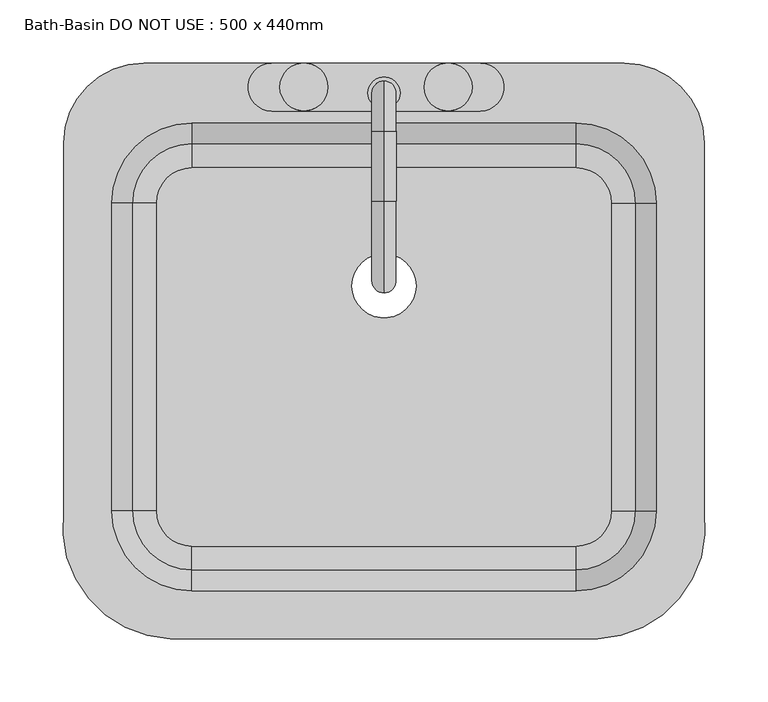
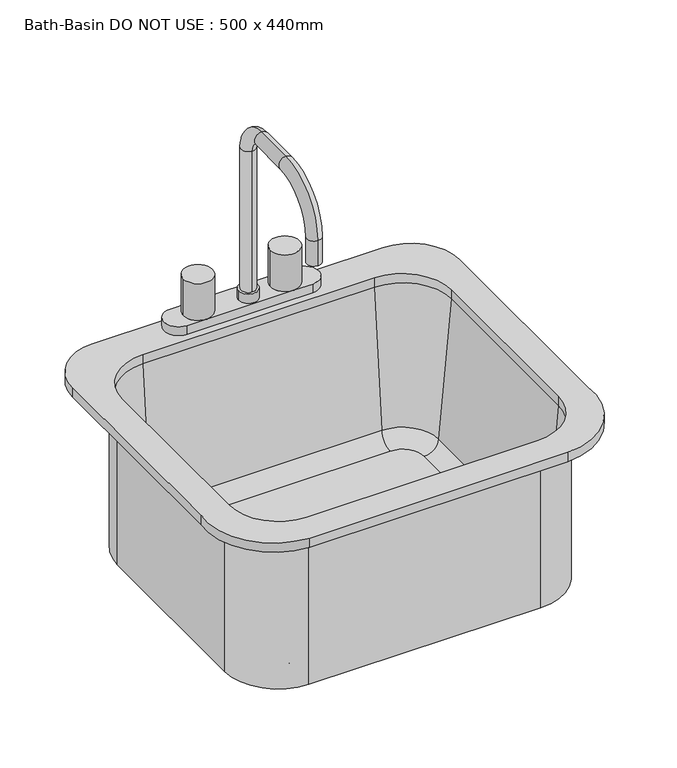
"""IFC4 building model written with IfcOpenShell, lengths in millimetres: flow terminal geometry, Bath-Basin DO NOT USE : 500 x 440mm."""

from ifc_helpers import new_model, si_unit, point, frame, origin, place, context, project, spatial, polyline, circle_curve, ellipse_curve, trimmed, source, transform, mapped, element, save
from ifc_brep_helpers import plane_surface, cylinder_surface, revolved_surface, advanced_brep


def bath_basin_do_not_use_500_x_440mm_e3a0a4a9(model_context):
    return source(origin(), model_context, "Body", "AdvancedBrep", [
        advanced_brep(
        [(237.9392406, 69.0204011, 546.1), (168.0892406, 138.8704011, 546.1), (168.0892406, 138.8704011, 762.0), (237.9392406, 69.0204011, 762.0), (237.9392406, -175.4545989, 546.1), (168.0892406, -245.3045989, 546.1), (-136.7107595, -245.3045989, 546.1), (-206.5607595, -175.4545989, 546.1), (-206.5607595, 69.0204011, 546.1), (-136.7107595, 138.8704011, 546.1), (-9.7107594, 3.175, 546.1), (41.0892406, 3.175, 546.1), (196.0776588, 69.0204011, 555.625), (168.0892406, 97.0088193, 555.625), (-136.7107595, 97.0088193, 555.625), (-164.6991777, 69.0204011, 555.625), (-164.6991777, -175.4545989, 555.625), (-136.7107595, -203.4430171, 555.625), (168.0892406, -203.4430171, 555.625), (196.0776588, -175.4545989, 555.625), (-9.7107594, 3.175, 555.625), (41.0892406, 3.175, 555.625), (215.0551678, 69.0204011, 573.0146831), (168.0892406, 115.9863283, 573.0146831), (231.5892406, 69.0204011, 762.0), (168.0892406, 132.5204011, 762.0), (237.9392406, -175.4545989, 762.0), (215.0551678, -175.4545989, 573.0146831), (231.5892406, -175.4545989, 762.0), (168.0892406, -245.3045989, 762.0), (168.0892406, -222.4205261, 573.0146831), (168.0892406, -238.9545989, 762.0), (-136.7107595, -245.3045989, 762.0), (-136.7107595, -222.4205261, 573.0146831), (-136.7107595, -238.9545989, 762.0), (-206.5607595, -175.4545989, 762.0), (-183.6766867, -175.4545989, 573.0146831), (-200.2107595, -175.4545989, 762.0), (-206.5607595, 69.0204011, 762.0), (-183.6766867, 69.0204011, 573.0146831), (-200.2107595, 69.0204011, 762.0), (-136.7107595, 138.8704011, 762.0), (-136.7107595, 115.9863283, 573.0146831), (-136.7107595, 132.5204011, 762.0), (-153.9606924, -277.0545989, 774.7), (185.3391735, -277.0545989, 774.7), (269.6892406, -175.4545989, 774.7), (269.6892406, 116.6454011, 774.7), (206.1892406, 180.1454011, 774.7), (-174.8107594, 180.1454011, 774.7), (-238.3107594, 116.6454011, 774.7), (-238.3107594, -175.4545982, 774.7), (168.0892406, 132.5204011, 774.7), (231.5892406, 69.0204011, 774.7), (231.5892406, -175.4545989, 774.7), (168.0892406, -238.9545989, 774.7), (-136.7107595, -238.9545989, 774.7), (-200.2107595, -175.4545989, 774.7), (-200.2107595, 69.0204011, 774.7), (-136.7107595, 132.5204011, 774.7), (-153.9606924, -277.0545989, 762.0), (-238.3107594, -175.4545982, 762.0), (-238.3107594, 116.6454011, 762.0), (-174.8107594, 180.1454011, 762.0), (206.1892406, 180.1454011, 762.0), (269.6892406, 116.6454011, 762.0), (269.6892406, -175.4545989, 762.0), (185.3391735, -277.0545989, 762.0)],
        [
            (0, 1, circle_curve(frame((168.0892406, 69.0204011, 546.1), z_axis=(0.0, 0.0, 1.0), x_axis=(0.0, 1.0, 0.0)), 69.85)),
            (1, 2),
            (2, 3, circle_curve(frame((168.0892406, 69.0204011, 762.0), z_axis=(0.0, 0.0, -1.0), x_axis=(0.0, 1.0, 0.0)), 69.85)),
            (3, 0),
            (0, 4),
            (4, 5, circle_curve(frame((168.0892406, -175.4545989, 546.1), z_axis=(0.0, 0.0, -1.0), x_axis=(1.0, 0.0, 0.0)), 69.85)),
            (5, 6),
            (6, 7, circle_curve(frame((-136.7107595, -175.4545989, 546.1), z_axis=(0.0, 0.0, -1.0), x_axis=(0.0, -1.0, 0.0)), 69.85)),
            (7, 8),
            (8, 9, circle_curve(frame((-136.7107595, 69.0204011, 546.1), z_axis=(0.0, 0.0, -1.0), x_axis=(-1.0, 0.0, 0.0)), 69.85)),
            (9, 1),
            (10, 11, circle_curve(frame((15.6892406, 3.175, 546.1), z_axis=(0.0, 0.0, 1.0), x_axis=(1.0, 0.0, 0.0)), 25.4)),
            (11, 10, circle_curve(frame((15.6892406, 3.175, 546.1), z_axis=(0.0, 0.0, 1.0), x_axis=(1.0, 0.0, 0.0)), 25.4)),
            (12, 13, circle_curve(frame((168.0892406, 69.0204011, 555.625), z_axis=(0.0, 0.0, 1.0), x_axis=(0.0, 1.0, 0.0)), 27.9884182)),
            (13, 14),
            (14, 15, circle_curve(frame((-136.7107595, 69.0204011, 555.625), z_axis=(0.0, 0.0, 1.0), x_axis=(-1.0, 0.0, 0.0)), 27.9884182)),
            (15, 16),
            (16, 17, circle_curve(frame((-136.7107595, -175.4545989, 555.625), z_axis=(0.0, 0.0, 1.0), x_axis=(0.0, -1.0, 0.0)), 27.9884182)),
            (17, 18),
            (18, 19, circle_curve(frame((168.0892406, -175.4545989, 555.625), z_axis=(0.0, 0.0, 1.0), x_axis=(1.0, 0.0, 0.0)), 27.9884182)),
            (19, 12),
            (20, 21, circle_curve(frame((15.6892406, 3.175, 555.625), z_axis=(0.0, 0.0, -1.0), x_axis=(1.0, 0.0, 0.0)), 25.4)),
            (21, 20, circle_curve(frame((15.6892406, 3.175, 555.625), z_axis=(0.0, 0.0, -1.0), x_axis=(1.0, 0.0, 0.0)), 25.4)),
            (12, 22, circle_curve(frame((196.0776588, 69.0204011, 574.675), z_axis=(0.0, -1.0, 0.0), x_axis=(1.0, 0.0, 0.0)), 19.05)),
            (22, 23, circle_curve(frame((168.0892406, 69.0204011, 573.0146831), z_axis=(0.0, 0.0, 1.0), x_axis=(0.0, 1.0, 0.0)), 46.9659272)),
            (23, 13, circle_curve(frame((168.0892406, 97.0088193, 574.675), z_axis=(-1.0, 0.0, 0.0), x_axis=(0.0, 1.0, 0.0)), 19.05)),
            (22, 24),
            (24, 25, circle_curve(frame((168.0892406, 69.0204011, 762.0), z_axis=(0.0, 0.0, 1.0), x_axis=(0.0, 1.0, 0.0)), 63.5)),
            (25, 23),
            (3, 26),
            (26, 4),
            (19, 27, circle_curve(frame((196.0776588, -175.4545989, 574.675), z_axis=(0.0, -1.0, 0.0), x_axis=(1.0, 0.0, 0.0)), 19.05)),
            (27, 22),
            (27, 28),
            (28, 24),
            (26, 29, circle_curve(frame((168.0892406, -175.4545989, 762.0), z_axis=(0.0, 0.0, -1.0), x_axis=(1.0, 0.0, 0.0)), 69.85)),
            (29, 5),
            (18, 30, circle_curve(frame((168.0892406, -203.4430171, 574.675), z_axis=(-1.0, 0.0, 0.0), x_axis=(0.0, -1.0, 0.0)), 19.05)),
            (30, 27, circle_curve(frame((168.0892406, -175.4545989, 573.0146831), z_axis=(0.0, 0.0, 1.0), x_axis=(1.0, 0.0, 0.0)), 46.9659272)),
            (30, 31),
            (31, 28, circle_curve(frame((168.0892406, -175.4545989, 762.0), z_axis=(0.0, 0.0, 1.0), x_axis=(1.0, 0.0, 0.0)), 63.5)),
            (29, 32),
            (32, 6),
            (17, 33, circle_curve(frame((-136.7107595, -203.4430171, 574.675), z_axis=(-1.0, 0.0, 0.0), x_axis=(0.0, -1.0, 0.0)), 19.05)),
            (33, 30),
            (33, 34),
            (34, 31),
            (32, 35, circle_curve(frame((-136.7107595, -175.4545989, 762.0), z_axis=(0.0, 0.0, -1.0), x_axis=(0.0, -1.0, 0.0)), 69.85)),
            (35, 7),
            (16, 36, circle_curve(frame((-164.6991777, -175.4545989, 574.675), z_axis=(0.0, 1.0, 0.0), x_axis=(-1.0, 0.0, 0.0)), 19.05)),
            (36, 33, circle_curve(frame((-136.7107595, -175.4545989, 573.0146831), z_axis=(0.0, 0.0, 1.0), x_axis=(0.0, -1.0, 0.0)), 46.9659272)),
            (36, 37),
            (37, 34, circle_curve(frame((-136.7107595, -175.4545989, 762.0), z_axis=(0.0, 0.0, 1.0), x_axis=(0.0, -1.0, 0.0)), 63.5)),
            (35, 38),
            (38, 8),
            (15, 39, circle_curve(frame((-164.6991777, 69.0204011, 574.675), z_axis=(0.0, 1.0, 0.0), x_axis=(-1.0, 0.0, 0.0)), 19.05)),
            (39, 36),
            (39, 40),
            (40, 37),
            (38, 41, circle_curve(frame((-136.7107595, 69.0204011, 762.0), z_axis=(0.0, 0.0, -1.0), x_axis=(-1.0, 0.0, 0.0)), 69.85)),
            (41, 9),
            (14, 42, circle_curve(frame((-136.7107595, 97.0088193, 574.675), z_axis=(1.0, 0.0, 0.0), x_axis=(0.0, 1.0, 0.0)), 19.05)),
            (42, 39, circle_curve(frame((-136.7107595, 69.0204011, 573.0146831), z_axis=(0.0, 0.0, 1.0), x_axis=(-1.0, 0.0, 0.0)), 46.9659272)),
            (42, 43),
            (43, 40, circle_curve(frame((-136.7107595, 69.0204011, 762.0), z_axis=(0.0, 0.0, 1.0), x_axis=(-1.0, 0.0, 0.0)), 63.5)),
            (41, 2),
            (23, 42),
            (25, 43),
            (20, 10),
            (11, 21),
            (44, 45),
            (45, 46, circle_curve(frame((181.5319558, -188.0793432, 774.7), z_axis=(0.0, 0.0, 1.0), x_axis=(1.0, 0.0, 0.0)), 89.0566732)),
            (46, 47),
            (47, 48, circle_curve(frame((206.1892406, 116.6454011, 774.7), z_axis=(0.0, 0.0, 1.0), x_axis=(1.0, 0.0, 0.0)), 63.5)),
            (48, 49),
            (49, 50, circle_curve(frame((-174.8107594, 116.6454011, 774.7), z_axis=(0.0, 0.0, 1.0), x_axis=(1.0, 0.0, 0.0)), 63.5)),
            (50, 51),
            (51, 44, circle_curve(frame((-150.1534746, -188.0793432, 774.7), z_axis=(0.0, 0.0, 1.0), x_axis=(1.0, 0.0, 0.0)), 89.0566732)),
            (52, 53, circle_curve(frame((168.0892406, 69.0204011, 774.7), z_axis=(0.0, 0.0, -1.0), x_axis=(1.0, 0.0, 0.0)), 63.5)),
            (53, 54),
            (54, 55, circle_curve(frame((168.0892406, -175.4545989, 774.7), z_axis=(0.0, 0.0, -1.0), x_axis=(1.0, 0.0, 0.0)), 63.5)),
            (55, 56),
            (56, 57, circle_curve(frame((-136.7107595, -175.4545989, 774.7), z_axis=(0.0, 0.0, -1.0), x_axis=(1.0, 0.0, 0.0)), 63.5)),
            (57, 58),
            (58, 59, circle_curve(frame((-136.7107595, 69.0204011, 774.7), z_axis=(0.0, 0.0, -1.0), x_axis=(1.0, 0.0, 0.0)), 63.5)),
            (59, 52),
            (60, 61, circle_curve(frame((-150.1534746, -188.0793432, 762.0), z_axis=(0.0, 0.0, -1.0), x_axis=(1.0, 0.0, 0.0)), 89.0566732)),
            (61, 62),
            (62, 63, circle_curve(frame((-174.8107594, 116.6454011, 762.0), z_axis=(0.0, 0.0, -1.0), x_axis=(1.0, 0.0, 0.0)), 63.5)),
            (63, 64),
            (64, 65, circle_curve(frame((206.1892406, 116.6454011, 762.0), z_axis=(0.0, 0.0, -1.0), x_axis=(1.0, 0.0, 0.0)), 63.5)),
            (65, 66),
            (66, 67, circle_curve(frame((181.5319558, -188.0793432, 762.0), z_axis=(0.0, 0.0, -1.0), x_axis=(1.0, 0.0, 0.0)), 89.0566732)),
            (67, 60),
            (44, 60),
            (67, 45),
            (66, 46),
            (65, 47),
            (64, 48),
            (63, 49),
            (62, 50),
            (61, 51),
            (52, 25),
            (24, 53),
            (28, 54),
            (31, 55),
            (34, 56),
            (37, 57),
            (40, 58),
            (43, 59),
        ],
        [
            cylinder_surface(frame((168.0892406, 69.0204011, 0.0), z_axis=(0.0, 0.0, -1.0), x_axis=(0.0, 1.0, 0.0)), 69.85),
            plane_surface(frame((168.0892406, 69.0204011, 546.1), z_axis=(0.0, 0.0, -1.0), x_axis=(0.0, 1.0, 0.0))),
            plane_surface(frame((168.0892406, 69.0204011, 555.625), z_axis=(0.0, 0.0, 1.0), x_axis=(0.0, 1.0, 0.0))),
            revolved_surface(trimmed(ellipse_curve(frame((168.0892406, 97.0088193, 574.675), z_axis=(1.0, 0.0, 0.0), x_axis=(0.0, 1.0, 0.0)), 19.05, 19.05), [point((168.0892406, 97.0088193, 555.625))], [point((168.0892406, 115.9863283, 573.0146831))], True, "CARTESIAN"), (168.0892406, 69.0204011, 0.0), (0.0, 0.0, -1.0)),
            revolved_surface(polyline([(168.0892406, 115.9863283, 573.0146831), (168.0892406, 132.5204011, 762.0)]), (168.0892406, 69.0204011, 0.0), (0.0, 0.0, -1.0)),
            plane_surface(frame((237.9392406, 69.0204011, 762.0), z_axis=(1.0, 0.0, 0.0), x_axis=(0.0, -1.0, 0.0))),
            revolved_surface(polyline([(215.1276588, -175.4545989, 574.675), (215.1276588, 69.0204011, 574.675)]), (196.0776588, 69.0204011, 574.675), (0.0, -1.0, 0.0)),
            plane_surface(frame((215.0551678, 69.0204011, 573.0146831), z_axis=(-0.9961946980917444, 0.0, 0.08715574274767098), x_axis=(0.0, -1.0, 0.0))),
            cylinder_surface(frame((168.0892406, -175.4545989, 0.0), z_axis=(0.0, 0.0, -1.0), x_axis=(1.0, 0.0, 0.0)), 69.85),
            revolved_surface(trimmed(ellipse_curve(frame((196.0776588, -175.4545989, 574.675), z_axis=(0.0, -1.0, 0.0), x_axis=(1.0, 0.0, 0.0)), 19.05, 19.05), [point((196.0776588, -175.4545989, 555.625))], [point((215.0551678, -175.4545989, 573.0146831))], True, "CARTESIAN"), (168.0892406, -175.4545989, 0.0), (0.0, 0.0, -1.0)),
            revolved_surface(polyline([(215.0551678, -175.4545989, 573.0146831), (231.5892406, -175.4545989, 762.0)]), (168.0892406, -175.4545989, 0.0), (0.0, 0.0, -1.0)),
            plane_surface(frame((168.0892406, -245.3045989, 762.0), z_axis=(0.0, -1.0, 0.0), x_axis=(-1.0, 0.0, 0.0))),
            revolved_surface(polyline([(-136.71075950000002, -222.4930171, 574.675), (168.0892406, -222.4930171, 574.675)]), (168.0892406, -203.4430171, 574.675), (-1.0, 0.0, 0.0)),
            plane_surface(frame((168.0892406, -222.4205261, 573.0146831), z_axis=(0.0, 0.9961946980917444, 0.08715574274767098), x_axis=(-1.0, 0.0, 0.0))),
            cylinder_surface(frame((-136.7107595, -175.4545989, 0.0), z_axis=(0.0, 0.0, -1.0), x_axis=(0.0, -1.0, 0.0)), 69.85),
            revolved_surface(trimmed(ellipse_curve(frame((-136.7107595, -203.4430171, 574.675), z_axis=(-1.0, 0.0, 0.0), x_axis=(0.0, -1.0, 0.0)), 19.05, 19.05), [point((-136.7107595, -203.4430171, 555.625))], [point((-136.7107595, -222.4205261, 573.0146831))], True, "CARTESIAN"), (-136.7107595, -175.4545989, 0.0), (0.0, 0.0, -1.0)),
            revolved_surface(polyline([(-136.7107595, -222.4205261, 573.0146831), (-136.7107595, -238.9545989, 762.0)]), (-136.7107595, -175.4545989, 0.0), (0.0, 0.0, -1.0)),
            plane_surface(frame((-206.5607595, -175.4545989, 762.0), z_axis=(-1.0, 0.0, 0.0), x_axis=(0.0, 1.0, 0.0))),
            revolved_surface(polyline([(-183.74917770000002, 69.02040110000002, 574.675), (-183.74917770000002, -175.4545989, 574.675)]), (-164.6991777, -175.4545989, 574.675), (0.0, 1.0, 0.0)),
            plane_surface(frame((-183.6766867, -175.4545989, 573.0146831), z_axis=(0.9961946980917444, 0.0, 0.08715574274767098), x_axis=(0.0, 1.0, 0.0))),
            cylinder_surface(frame((-136.7107595, 69.0204011, 0.0), z_axis=(0.0, 0.0, -1.0), x_axis=(-1.0, 0.0, 0.0)), 69.85),
            revolved_surface(trimmed(ellipse_curve(frame((-164.6991777, 69.0204011, 574.675), z_axis=(0.0, 1.0, 0.0), x_axis=(-1.0, 0.0, 0.0)), 19.05, 19.05), [point((-164.6991777, 69.0204011, 555.625))], [point((-183.6766867, 69.0204011, 573.0146831))], True, "CARTESIAN"), (-136.7107595, 69.0204011, 0.0), (0.0, 0.0, -1.0)),
            revolved_surface(polyline([(-183.6766867, 69.0204011, 573.0146831), (-200.2107595, 69.0204011, 762.0)]), (-136.7107595, 69.0204011, 0.0), (0.0, 0.0, -1.0)),
            plane_surface(frame((-136.7107595, 138.8704011, 762.0), z_axis=(0.0, 1.0, 0.0), x_axis=(1.0, 0.0, 0.0))),
            revolved_surface(polyline([(168.08924060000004, 116.0588193, 574.675), (-136.7107595, 116.0588193, 574.675)]), (-136.7107595, 97.0088193, 574.675), (1.0, 0.0, 0.0)),
            plane_surface(frame((-136.7107595, 115.9863283, 573.0146831), z_axis=(0.0, -0.9961946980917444, 0.08715574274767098), x_axis=(1.0, 0.0, 0.0))),
            revolved_surface(polyline([(41.0892406, 3.175, 546.1), (41.0892406, 3.175, 555.625)]), (15.6892406, 3.175, 0.0), (0.0, 0.0, -1.0)),
            plane_surface(frame((185.3391735, -277.0545989, 774.7), z_axis=(0.0, 0.0, 1.0), x_axis=(1.0, 0.0, 0.0))),
            plane_surface(frame((185.3391735, -277.0545989, 762.0), z_axis=(0.0, 0.0, -1.0), x_axis=(-1.0, 0.0, 0.0))),
            plane_surface(frame((-153.9606924, -277.0545989, 774.7), z_axis=(0.0, -1.0, 0.0), x_axis=(0.0, 0.0, -1.0))),
            cylinder_surface(frame((181.5319558, -188.0793432, 762.0), z_axis=(0.0, 0.0, 1.0), x_axis=(1.0, 0.0, 0.0)), 89.0566732),
            plane_surface(frame((269.6892406, -175.4545989, 774.7), z_axis=(1.0, 0.0, 0.0), x_axis=(0.0, 0.0, -1.0))),
            cylinder_surface(frame((206.1892406, 116.6454011, 762.0), z_axis=(0.0, 0.0, 1.0), x_axis=(1.0, 0.0, 0.0)), 63.5),
            plane_surface(frame((206.1892406, 180.1454011, 774.7), z_axis=(0.0, 1.0, 0.0), x_axis=(0.0, 0.0, -1.0))),
            cylinder_surface(frame((-174.8107594, 116.6454011, 762.0), z_axis=(0.0, 0.0, 1.0), x_axis=(1.0, 0.0, 0.0)), 63.5),
            plane_surface(frame((-238.3107594, 116.6454011, 774.7), z_axis=(-1.0, 0.0, 0.0), x_axis=(0.0, 0.0, -1.0))),
            cylinder_surface(frame((-150.1534746, -188.0793432, 762.0), z_axis=(0.0, 0.0, 1.0), x_axis=(1.0, 0.0, 0.0)), 89.0566732),
            revolved_surface(polyline([(231.5892406, 69.0204011, 762.0), (231.5892406, 69.0204011, 774.7)]), (168.0892406, 69.0204011, 0.0), (0.0, 0.0, -1.0)),
            plane_surface(frame((231.5892406, 69.0204011, 774.7), z_axis=(-1.0, 0.0, 0.0), x_axis=(0.0, 0.0, -1.0))),
            revolved_surface(polyline([(231.5892406, -175.4545989, 762.0), (231.5892406, -175.4545989, 774.7)]), (168.0892406, -175.4545989, 0.0), (0.0, 0.0, -1.0)),
            plane_surface(frame((168.0892406, -238.9545989, 774.7), z_axis=(0.0, 1.0, 0.0), x_axis=(0.0, 0.0, -1.0))),
            revolved_surface(polyline([(-73.2107595, -175.4545989, 762.0), (-73.2107595, -175.4545989, 774.7)]), (-136.7107595, -175.4545989, 0.0), (0.0, 0.0, -1.0)),
            plane_surface(frame((-200.2107595, -175.4545989, 774.7), z_axis=(1.0, 0.0, 0.0), x_axis=(0.0, 0.0, -1.0))),
            revolved_surface(polyline([(-73.2107595, 69.0204011, 762.0), (-73.2107595, 69.0204011, 774.7)]), (-136.7107595, 69.0204011, 0.0), (0.0, 0.0, -1.0)),
            plane_surface(frame((-136.7107595, 132.5204011, 774.7), z_axis=(0.0, -1.0, 0.0), x_axis=(0.0, 0.0, -1.0))),
        ],
        [
            (0, [[1, 2, 3, 4]]),
            (1, [[-1, 5, 6, 7, 8, 9, 10, 11], [12, 13]]),
            (2, [[14, 15, 16, 17, 18, 19, 20, 21], [22, 23]]),
            (3, [[-14, 24, 25, 26]]),
            (4, [[-25, 27, 28, 29]]),
            (5, [[-4, 30, 31, -5]]),
            (6, [[-24, -21, 32, 33]]),
            (7, [[-27, -33, 34, 35]]),
            (8, [[-31, 36, 37, -6]]),
            (9, [[-32, -20, 38, 39]]),
            (10, [[-34, -39, 40, 41]]),
            (11, [[-37, 42, 43, -7]]),
            (12, [[-38, -19, 44, 45]]),
            (13, [[-40, -45, 46, 47]]),
            (14, [[-43, 48, 49, -8]]),
            (15, [[-44, -18, 50, 51]]),
            (16, [[-46, -51, 52, 53]]),
            (17, [[-49, 54, 55, -9]]),
            (18, [[-50, -17, 56, 57]]),
            (19, [[-52, -57, 58, 59]]),
            (20, [[-55, 60, 61, -10]]),
            (21, [[-56, -16, 62, 63]]),
            (22, [[-58, -63, 64, 65]]),
            (23, [[-2, -11, -61, 66]]),
            (24, [[-26, 67, -62, -15]]),
            (25, [[-29, 68, -64, -67]]),
            (26, [[-22, 69, -13, 70]]),
            (26, [[-23, -70, -12, -69]]),
            (27, [[71, 72, 73, 74, 75, 76, 77, 78], [79, 80, 81, 82, 83, 84, 85, 86]]),
            (28, [[87, 88, 89, 90, 91, 92, 93, 94], [-3, -66, -60, -54, -48, -42, -36, -30]]),
            (29, [[-71, 95, -94, 96]]),
            (30, [[-72, -96, -93, 97]]),
            (31, [[-73, -97, -92, 98]]),
            (32, [[-74, -98, -91, 99]]),
            (33, [[-75, -99, -90, 100]]),
            (34, [[-76, -100, -89, 101]]),
            (35, [[-77, -101, -88, 102]]),
            (36, [[-78, -102, -87, -95]]),
            (37, [[-79, 103, -28, 104]]),
            (38, [[-80, -104, -35, 105]]),
            (39, [[-81, -105, -41, 106]]),
            (40, [[-82, -106, -47, 107]]),
            (41, [[-83, -107, -53, 108]]),
            (42, [[-84, -108, -59, 109]]),
            (43, [[-85, -109, -65, 110]]),
            (44, [[-86, -110, -68, -103]]),
        ],
    ),
        advanced_brep(
        [(91.8892406, 180.1454011, 774.7), (91.8892406, 142.0454011, 774.7), (66.4892406, 142.0454011, 774.7), (-47.8107594, 142.0454011, 774.7), (-73.2107594, 142.0454011, 774.7), (-73.2107594, 180.1454011, 774.7), (-47.8107594, 180.1454011, 774.7), (66.4892406, 180.1454011, 774.7), (15.6892406, 165.8579011, 995.3625), (15.6892406, 146.8079011, 995.3625), (15.6892406, 146.8079011, 800.1), (15.6892406, 165.8579011, 800.1), (15.6892406, 126.1704011, 1035.05), (15.6892406, 126.1704011, 1016.0), (15.6892406, 70.6079011, 1035.05), (15.6892406, 70.6079011, 1016.0), (15.6892406, -2.4170989, 962.025), (15.6892406, 16.6329011, 962.025), (15.6892406, -2.4170989, 927.1), (15.6892406, 16.6329011, 927.1), (2.9892406, 156.3329011, 800.1), (28.3892406, 156.3329011, 800.1), (2.9892406, 156.3329011, 787.2), (28.3892406, 156.3329011, 787.2), (-73.2107594, 180.1454011, 787.2), (-73.2107594, 142.0454011, 787.2), (-47.8107594, 142.0454011, 787.2), (-66.8607594, 161.0954011, 787.2), (-47.8107594, 180.1454011, 787.2), (91.8892406, 142.0454011, 787.2), (91.8892406, 180.1454011, 787.2), (66.4892406, 180.1454011, 787.2), (85.5392406, 161.0954011, 787.2), (66.4892406, 142.0454011, 787.2), (-28.7607594, 161.0954011, 787.2), (47.4392406, 161.0954011, 787.2), (-66.8607594, 161.0954011, 838.2), (-28.7607594, 161.0954011, 838.2), (47.4392406, 161.0954011, 838.2), (85.5392406, 161.0954011, 838.2)],
        [
            (0, 1, circle_curve(frame((91.8892406, 161.0954011, 774.7), z_axis=(0.0, 0.0, -1.0), x_axis=(1.0, 0.0, 0.0)), 19.05)),
            (1, 2),
            (2, 3),
            (3, 4),
            (4, 5, circle_curve(frame((-73.2107594, 161.0954011, 774.7), z_axis=(0.0, 0.0, -1.0), x_axis=(1.0, 0.0, 0.0)), 19.05)),
            (5, 6),
            (6, 7),
            (7, 0),
            (8, 9, circle_curve(frame((15.6892406, 156.3329011, 995.3625), z_axis=(0.0, 0.0, -1.0), x_axis=(0.0, -1.0, 0.0)), 9.525)),
            (9, 10),
            (10, 11, circle_curve(frame((15.6892406, 156.3329011, 800.1), z_axis=(0.0, 0.0, 1.0), x_axis=(0.0, -1.0, 0.0)), 9.525)),
            (11, 8),
            (9, 8, circle_curve(frame((15.6892406, 156.3329011, 995.3625), z_axis=(0.0, 0.0, -1.0), x_axis=(0.0, -1.0, 0.0)), 9.525)),
            (11, 10, circle_curve(frame((15.6892406, 156.3329011, 800.1), z_axis=(0.0, 0.0, 1.0), x_axis=(0.0, -1.0, 0.0)), 9.525)),
            (8, 12, circle_curve(frame((15.6892406, 126.1704011, 995.3625), z_axis=(1.0, 0.0, 0.0), x_axis=(0.0, 1.0, 0.0)), 39.6875)),
            (12, 13, circle_curve(frame((15.6892406, 126.1704011, 1025.525), z_axis=(0.0, 1.0, 0.0), x_axis=(0.0, 0.0, -1.0)), 9.525)),
            (13, 9, circle_curve(frame((15.6892406, 126.1704011, 995.3625), z_axis=(-1.0, 0.0, 0.0), x_axis=(0.0, 1.0, 0.0)), 20.6375)),
            (13, 12, circle_curve(frame((15.6892406, 126.1704011, 1025.525), z_axis=(0.0, 1.0, 0.0), x_axis=(0.0, 0.0, -1.0)), 9.525)),
            (12, 14),
            (14, 15, circle_curve(frame((15.6892406, 70.6079011, 1025.525), z_axis=(0.0, 1.0, 0.0), x_axis=(0.0, 0.0, -1.0)), 9.525)),
            (15, 13),
            (15, 14, circle_curve(frame((15.6892406, 70.6079011, 1025.525), z_axis=(0.0, 1.0, 0.0), x_axis=(0.0, 0.0, -1.0)), 9.525)),
            (14, 16, circle_curve(frame((15.6892406, 70.6079011, 962.025), z_axis=(1.0, 0.0, 0.0), x_axis=(0.0, 0.0, 1.0)), 73.025)),
            (16, 17, circle_curve(frame((15.6892406, 7.1079011, 962.025), z_axis=(0.0, 0.0, 1.0), x_axis=(0.0, 1.0, 0.0)), 9.525)),
            (17, 15, circle_curve(frame((15.6892406, 70.6079011, 962.025), z_axis=(-1.0, 0.0, 0.0), x_axis=(0.0, 0.0, 1.0)), 53.975)),
            (17, 16, circle_curve(frame((15.6892406, 7.1079011, 962.025), z_axis=(0.0, 0.0, 1.0), x_axis=(0.0, 1.0, 0.0)), 9.525)),
            (18, 19, circle_curve(frame((15.6892406, 7.1079011, 927.1), z_axis=(0.0, 0.0, -1.0), x_axis=(0.0, 1.0, 0.0)), 9.525)),
            (19, 18, circle_curve(frame((15.6892406, 7.1079011, 927.1), z_axis=(0.0, 0.0, -1.0), x_axis=(0.0, 1.0, 0.0)), 9.525)),
            (16, 18),
            (19, 17),
            (20, 21, circle_curve(frame((15.6892406, 156.3329011, 800.1), z_axis=(0.0, 0.0, 1.0), x_axis=(1.0, 0.0, 0.0)), 12.7)),
            (21, 20, circle_curve(frame((15.6892406, 156.3329011, 800.1), z_axis=(0.0, 0.0, 1.0), x_axis=(1.0, 0.0, 0.0)), 12.7)),
            (20, 22),
            (22, 23, circle_curve(frame((15.6892406, 156.3329011, 787.2), z_axis=(0.0, 0.0, 1.0), x_axis=(1.0, 0.0, 0.0)), 12.7)),
            (23, 21),
            (23, 22, circle_curve(frame((15.6892406, 156.3329011, 787.2), z_axis=(0.0, 0.0, 1.0), x_axis=(1.0, 0.0, 0.0)), 12.7)),
            (24, 25, circle_curve(frame((-73.2107594, 161.0954011, 787.2), z_axis=(0.0, 0.0, 1.0), x_axis=(1.0, 0.0, 0.0)), 19.05)),
            (25, 26),
            (26, 27, circle_curve(frame((-47.8107594, 161.0954011, 787.2), z_axis=(0.0, 0.0, -1.0), x_axis=(1.0, 0.0, 0.0)), 19.05)),
            (27, 28, circle_curve(frame((-47.8107594, 161.0954011, 787.2), z_axis=(0.0, 0.0, -1.0), x_axis=(1.0, 0.0, 0.0)), 19.05)),
            (28, 24),
            (29, 30, circle_curve(frame((91.8892406, 161.0954011, 787.2), z_axis=(0.0, 0.0, 1.0), x_axis=(1.0, 0.0, 0.0)), 19.05)),
            (30, 31),
            (31, 32, circle_curve(frame((66.4892406, 161.0954011, 787.2), z_axis=(0.0, 0.0, -1.0), x_axis=(1.0, 0.0, 0.0)), 19.05)),
            (32, 33, circle_curve(frame((66.4892406, 161.0954011, 787.2), z_axis=(0.0, 0.0, -1.0), x_axis=(1.0, 0.0, 0.0)), 19.05)),
            (33, 29),
            (31, 28),
            (28, 34, circle_curve(frame((-47.8107594, 161.0954011, 787.2), z_axis=(0.0, 0.0, -1.0), x_axis=(1.0, 0.0, 0.0)), 19.05)),
            (34, 26, circle_curve(frame((-47.8107594, 161.0954011, 787.2), z_axis=(0.0, 0.0, -1.0), x_axis=(1.0, 0.0, 0.0)), 19.05)),
            (26, 33),
            (33, 35, circle_curve(frame((66.4892406, 161.0954011, 787.2), z_axis=(0.0, 0.0, -1.0), x_axis=(1.0, 0.0, 0.0)), 19.05)),
            (35, 31, circle_curve(frame((66.4892406, 161.0954011, 787.2), z_axis=(0.0, 0.0, -1.0), x_axis=(1.0, 0.0, 0.0)), 19.05)),
            (30, 0),
            (5, 24),
            (4, 25),
            (1, 29),
            (36, 37, circle_curve(frame((-47.8107594, 161.0954011, 838.2), z_axis=(0.0, 0.0, 1.0), x_axis=(1.0, 0.0, 0.0)), 19.05)),
            (37, 36, circle_curve(frame((-47.8107594, 161.0954011, 838.2), z_axis=(0.0, 0.0, 1.0), x_axis=(1.0, 0.0, 0.0)), 19.05)),
            (38, 39, circle_curve(frame((66.4892406, 161.0954011, 838.2), z_axis=(0.0, 0.0, 1.0), x_axis=(1.0, 0.0, 0.0)), 19.05)),
            (39, 38, circle_curve(frame((66.4892406, 161.0954011, 838.2), z_axis=(0.0, 0.0, 1.0), x_axis=(1.0, 0.0, 0.0)), 19.05)),
            (36, 27),
            (34, 37),
            (38, 35),
            (32, 39),
        ],
        [
            plane_surface(frame((15.6892406, 146.8079011, 774.7), z_axis=(0.0, 0.0, -1.0), x_axis=(1.0, 0.0, 0.0))),
            cylinder_surface(frame((15.6892406, 156.3329011, 774.7), z_axis=(0.0, 0.0, -1.0), x_axis=(0.0, -1.0, 0.0)), 9.525),
            revolved_surface(trimmed(ellipse_curve(frame((15.6892406, 156.3329011, 995.3625), z_axis=(0.0, 0.0, -1.0), x_axis=(0.0, -1.0, 0.0)), 9.525, 9.525), [point((15.6892406, 165.8579011, 995.3625))], [point((15.6892406, 146.8079011, 995.3625))], True, "CARTESIAN"), (15.6892406, 126.1704011, 995.3625), (1.0, 0.0, 0.0)),
            revolved_surface(trimmed(ellipse_curve(frame((15.6892406, 156.3329011, 995.3625), z_axis=(0.0, 0.0, -1.0), x_axis=(0.0, -1.0, 0.0)), 9.525, 9.525), [point((15.6892406, 146.8079011, 995.3625))], [point((15.6892406, 165.8579011, 995.3625))], True, "CARTESIAN"), (15.6892406, 126.1704011, 995.3625), (1.0, 0.0, 0.0)),
            cylinder_surface(frame((15.6892406, 126.1704011, 1025.525), z_axis=(0.0, 1.0, 0.0), x_axis=(0.0, 0.0, -1.0)), 9.525),
            revolved_surface(trimmed(ellipse_curve(frame((15.6892406, 70.6079011, 1025.525), z_axis=(0.0, 1.0, 0.0), x_axis=(0.0, 0.0, -1.0)), 9.525, 9.525), [point((15.6892406, 70.6079011, 1035.05))], [point((15.6892406, 70.6079011, 1016.0))], True, "CARTESIAN"), (15.6892406, 70.6079011, 962.025), (1.0, 0.0, 0.0)),
            revolved_surface(trimmed(ellipse_curve(frame((15.6892406, 70.6079011, 1025.525), z_axis=(0.0, 1.0, 0.0), x_axis=(0.0, 0.0, -1.0)), 9.525, 9.525), [point((15.6892406, 70.6079011, 1016.0))], [point((15.6892406, 70.6079011, 1035.05))], True, "CARTESIAN"), (15.6892406, 70.6079011, 962.025), (1.0, 0.0, 0.0)),
            plane_surface(frame((15.6892406, -2.4170989, 927.1), z_axis=(0.0, 0.0, -1.0), x_axis=(-1.0, 0.0, 0.0))),
            cylinder_surface(frame((15.6892406, 7.1079011, 962.025), z_axis=(0.0, 0.0, 1.0), x_axis=(0.0, 1.0, 0.0)), 9.525),
            plane_surface(frame((28.3892406, 156.3329011, 800.1), z_axis=(0.0, 0.0, 1.0), x_axis=(0.0, 1.0, 0.0))),
            cylinder_surface(frame((15.6892406, 156.3329011, 774.7), z_axis=(0.0, 0.0, 1.0), x_axis=(1.0, 0.0, 0.0)), 12.7),
            plane_surface(frame((-73.2107594, 180.1454011, 787.2), z_axis=(0.0, 0.0, 1.0), x_axis=(-1.0, 0.0, 0.0))),
            plane_surface(frame((91.8892406, 180.1454011, 787.2), z_axis=(0.0, 1.0, 0.0), x_axis=(0.0, 0.0, -1.0))),
            cylinder_surface(frame((-73.2107594, 161.0954011, 774.7), z_axis=(0.0, 0.0, 1.0), x_axis=(1.0, 0.0, 0.0)), 19.05),
            plane_surface(frame((-73.2107594, 142.0454011, 787.2), z_axis=(0.0, -1.0, 0.0), x_axis=(0.0, 0.0, -1.0))),
            cylinder_surface(frame((91.8892406, 161.0954011, 774.7), z_axis=(0.0, 0.0, 1.0), x_axis=(1.0, 0.0, 0.0)), 19.05),
            plane_surface(frame((-28.7607594, 161.0954011, 838.2), z_axis=(0.0, 0.0, 1.0), x_axis=(0.0, 1.0, 0.0))),
            cylinder_surface(frame((-47.8107594, 161.0954011, 774.7), z_axis=(0.0, 0.0, 1.0), x_axis=(1.0, 0.0, 0.0)), 19.05),
            cylinder_surface(frame((66.4892406, 161.0954011, 0.0), z_axis=(0.0, 0.0, 1.0), x_axis=(1.0, 0.0, 0.0)), 19.05),
        ],
        [
            (0, [[1, 2, 3, 4, 5, 6, 7, 8]]),
            (1, [[9, 10, 11, 12]]),
            (1, [[13, -12, 14, -10]]),
            (2, [[-9, 15, 16, 17]]),
            (3, [[-13, -17, 18, -15]]),
            (4, [[-16, 19, 20, 21]]),
            (4, [[-18, -21, 22, -19]]),
            (5, [[-20, 23, 24, 25]]),
            (6, [[-22, -25, 26, -23]]),
            (7, [[27, 28]]),
            (8, [[-24, 29, -28, 30]]),
            (8, [[-26, -30, -27, -29]]),
            (9, [[31, 32], [-11, -14]]),
            (10, [[-31, 33, 34, 35]]),
            (10, [[-32, -35, 36, -33]]),
            (11, [[37, 38, 39, 40, 41]]),
            (11, [[42, 43, 44, 45, 46]]),
            (11, [[47, 48, 49, 50, 51, 52], [-34, -36]]),
            (12, [[53, -8, -7, -6, 54, -41, -47, -43]]),
            (13, [[-37, -54, -5, 55]]),
            (14, [[-55, -4, -3, -2, 56, -46, -50, -38]]),
            (15, [[-42, -56, -1, -53]]),
            (16, [[57, 58]]),
            (16, [[59, 60]]),
            (17, [[-57, 61, -39, -49, 62]]),
            (17, [[-58, -62, -48, -40, -61]]),
            (18, [[-59, 63, -51, -45, 64]]),
            (18, [[-60, -64, -44, -52, -63]]),
        ],
    ),
    ])


if __name__ == "__main__":
    model = new_model("IFC4")
    model_context = context("Model", 3, world=origin())
    ifc_project = project(units=[si_unit("LENGTHUNIT", "METRE", prefix="MILLI")], contexts=[model_context])
    site = spatial("IfcSite", under=ifc_project)
    building = spatial("IfcBuilding", under=site)
    placement = place(None, origin())
    bath_basin_do_not_use_500_x_440mm_shape = bath_basin_do_not_use_500_x_440mm_e3a0a4a9(model_context)
    element("IfcFlowTerminal", 1, ObjectType="Bath-Basin DO NOT USE : 500 x 440mm", at=placement, inside=building, context=model_context, shape_type="MappedRepresentation", body=[
        mapped(bath_basin_do_not_use_500_x_440mm_shape, transform((0.0, 0.0, 0.0), x_axis=(1.0, 0.0, 0.0), y_axis=(0.0, 1.0, 0.0), z_axis=(0.0, 0.0, 1.0))),
    ])
    save(model, "model.ifc")
